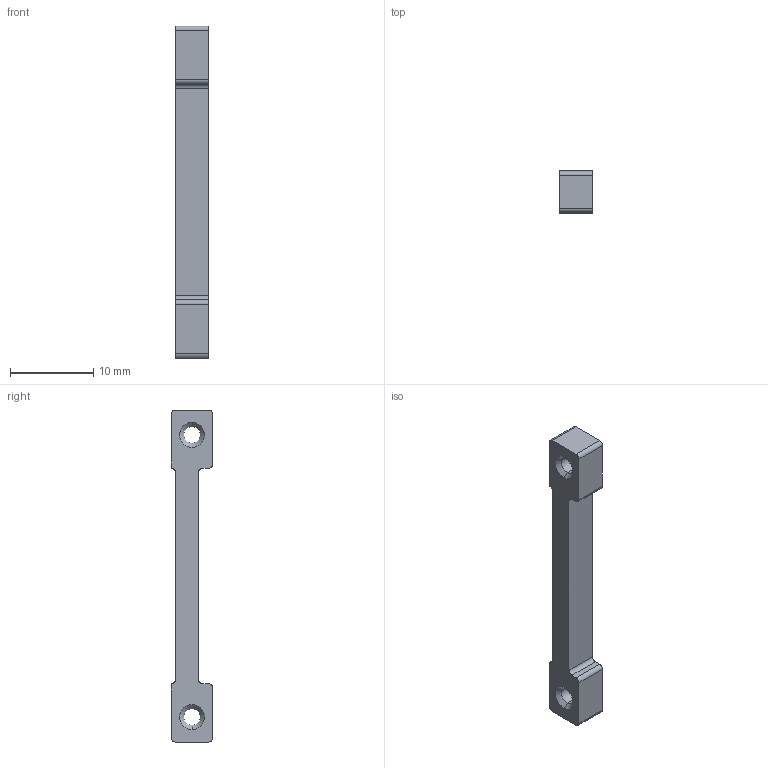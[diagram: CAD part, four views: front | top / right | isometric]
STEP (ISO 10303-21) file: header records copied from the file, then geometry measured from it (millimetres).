
FILE_DESCRIPTION (( 'STEP AP214' ), '1' );
FILE_NAME ('çàæèì 3.STEP', '2024-12-19T13:24:14', ( '' ), ( '' ), 'SwSTEP 2.0', 'SolidWorks 2021', '' );
FILE_SCHEMA (( 'AUTOMOTIVE_DESIGN' ));
Length unit declared in the file: millimetre
Products named in the file (1): çàæèì 3
Bounding box: 4 x 5 x 40 mm (x, y, z)
Volume: 542 mm3; surface area: 686 mm2
Topology: 1 solids, 1 shells, 34 faces, 88 edges, 56 vertices
Faces by surface type: cylinder 14, plane 12, cone 8
Entity records: 1086 total; most frequent: DIRECTION 194, CARTESIAN_POINT 179, ORIENTED_EDGE 176, EDGE_CURVE 88, AXIS2_PLACEMENT_3D 71, VERTEX_POINT 56, VECTOR 52, LINE 52
